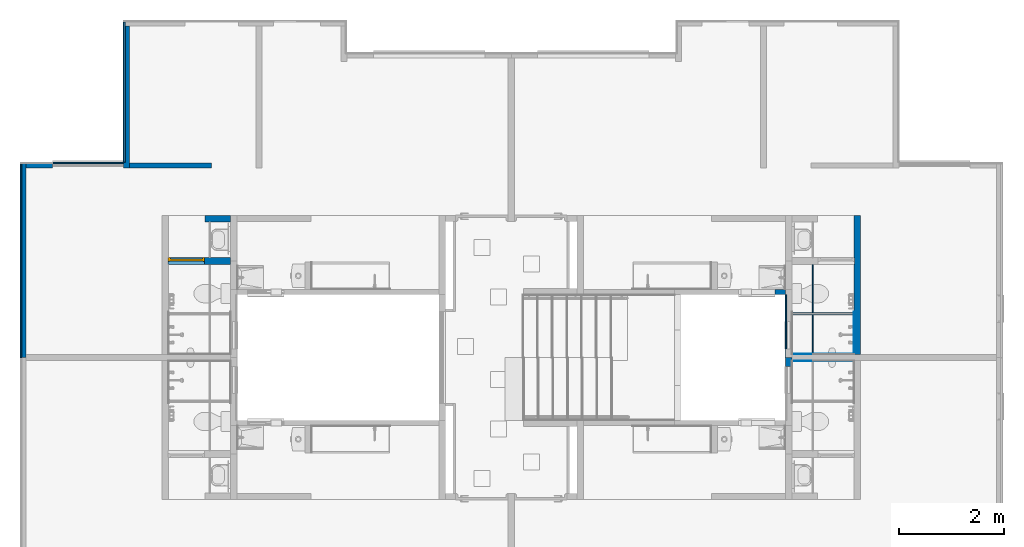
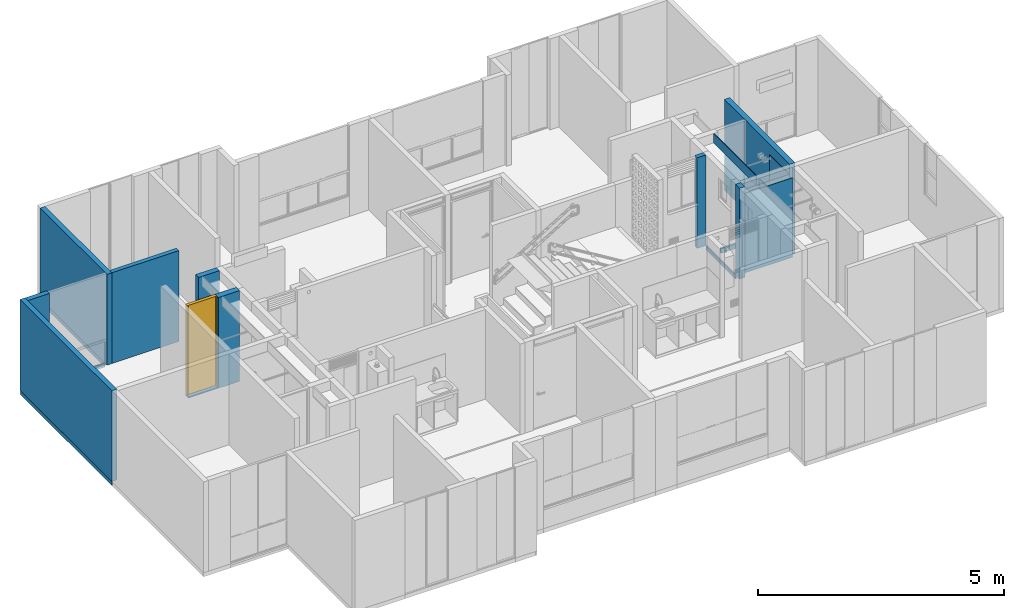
# One storey, part 15 of 48: 18 walls, 1 door, 2 openings.
"""IFC4 building model written with IfcOpenShell, lengths in metres."""

from ifc_helpers import new_model, entity, si_unit, converted_unit, derived_unit, direction, frame, origin, place, context, subcontext, project, spatial, indexed_curve, outline, extrude, polygons, source, transform, mapped, material, constituent, constituent_set, type_object, type_shapes, element, fill, save


model = new_model("IFC4")

# Units and contexts
model_context = context("Model", 3, precision=1e-05, world=origin(), true_north=direction((6.123031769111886e-17, 1.0)))
body_context = subcontext(model_context, "Body", "Model", "MODEL_VIEW")
ifc_project = project(units=[si_unit("LENGTHUNIT", "METRE"), si_unit("AREAUNIT", "SQUARE_METRE"), si_unit("VOLUMEUNIT", "CUBIC_METRE"), converted_unit("PLANEANGLEUNIT", "DEGREE", entity("IfcRatioMeasure", 0.017453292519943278), si_unit("PLANEANGLEUNIT", "RADIAN"), dimensions=[0, 0, 0, 0, 0, 0, 0]), si_unit("MASSUNIT", "GRAM", prefix="KILO"), derived_unit("MASSDENSITYUNIT", [(si_unit("MASSUNIT", "GRAM", prefix="KILO"), 1), (si_unit("LENGTHUNIT", "METRE"), -3)]), derived_unit("IONCONCENTRATIONUNIT", [(si_unit("MASSUNIT", "GRAM", prefix="KILO"), 1), (si_unit("LENGTHUNIT", "METRE"), -3)]), derived_unit("MOMENTOFINERTIAUNIT", [(si_unit("LENGTHUNIT", "METRE"), 4)]), si_unit("TIMEUNIT", "SECOND"), si_unit("FREQUENCYUNIT", "HERTZ"), si_unit("THERMODYNAMICTEMPERATUREUNIT", "DEGREE_CELSIUS"), derived_unit("THERMALTRANSMITTANCEUNIT", [(si_unit("MASSUNIT", "GRAM", prefix="KILO"), 1), (si_unit("THERMODYNAMICTEMPERATUREUNIT", "KELVIN"), -1), (si_unit("TIMEUNIT", "SECOND"), -3)]), derived_unit("THERMALCONDUCTANCEUNIT", [(si_unit("MASSUNIT", "GRAM", prefix="KILO"), 1), (si_unit("THERMODYNAMICTEMPERATUREUNIT", "KELVIN"), -1), (si_unit("TIMEUNIT", "SECOND"), -3), (si_unit("LENGTHUNIT", "METRE"), 1)]), derived_unit("VOLUMETRICFLOWRATEUNIT", [(si_unit("LENGTHUNIT", "METRE"), 3), (si_unit("TIMEUNIT", "SECOND"), -1)]), derived_unit("MASSFLOWRATEUNIT", [(si_unit("MASSUNIT", "GRAM", prefix="KILO"), 1), (si_unit("TIMEUNIT", "SECOND"), -1)]), derived_unit("ROTATIONALFREQUENCYUNIT", [(si_unit("TIMEUNIT", "SECOND"), -1)]), si_unit("ELECTRICCURRENTUNIT", "AMPERE"), si_unit("ELECTRICVOLTAGEUNIT", "VOLT"), si_unit("POWERUNIT", "WATT"), si_unit("FORCEUNIT", "NEWTON", prefix="KILO"), si_unit("ILLUMINANCEUNIT", "LUX"), si_unit("LUMINOUSFLUXUNIT", "LUMEN"), si_unit("LUMINOUSINTENSITYUNIT", "CANDELA"), derived_unit("USERDEFINED", [(si_unit("MASSUNIT", "GRAM", prefix="KILO"), -1), (si_unit("LENGTHUNIT", "METRE"), -2), (si_unit("TIMEUNIT", "SECOND"), 3), (si_unit("LUMINOUSFLUXUNIT", "LUMEN"), 1)]), derived_unit("USERDEFINED", [(si_unit("MASSUNIT", "GRAM", prefix="KILO"), 1), (si_unit("TIMEUNIT", "SECOND"), -3), (si_unit("LENGTHUNIT", "METRE"), 3), (si_unit("ELECTRICCURRENTUNIT", "AMPERE"), -2)]), derived_unit("SOUNDPOWERUNIT", [(si_unit("MASSUNIT", "GRAM", prefix="KILO"), 1), (si_unit("TIMEUNIT", "SECOND"), -3), (si_unit("LENGTHUNIT", "METRE"), 2)]), derived_unit("SOUNDPRESSUREUNIT", [(si_unit("MASSUNIT", "GRAM", prefix="KILO"), 1), (si_unit("LENGTHUNIT", "METRE"), -1), (si_unit("TIMEUNIT", "SECOND"), -2)]), derived_unit("LINEARVELOCITYUNIT", [(si_unit("LENGTHUNIT", "METRE"), 1), (si_unit("TIMEUNIT", "SECOND"), -1)]), si_unit("PRESSUREUNIT", "PASCAL"), derived_unit("USERDEFINED", [(si_unit("MASSUNIT", "GRAM", prefix="KILO"), 1), (si_unit("LENGTHUNIT", "METRE"), -2), (si_unit("TIMEUNIT", "SECOND"), -2)]), derived_unit("LINEARFORCEUNIT", [(si_unit("MASSUNIT", "GRAM", prefix="KILO"), 1), (si_unit("TIMEUNIT", "SECOND"), -2)]), derived_unit("PLANARFORCEUNIT", [(si_unit("MASSUNIT", "GRAM", prefix="KILO"), 1), (si_unit("LENGTHUNIT", "METRE"), -1), (si_unit("TIMEUNIT", "SECOND"), -2)]), derived_unit("SPECIFICHEATCAPACITYUNIT", [(si_unit("THERMODYNAMICTEMPERATUREUNIT", "KELVIN"), -1), (si_unit("LENGTHUNIT", "METRE"), 2), (si_unit("TIMEUNIT", "SECOND"), -2)]), derived_unit("HEATINGVALUEUNIT", [(si_unit("LENGTHUNIT", "METRE"), 2), (si_unit("TIMEUNIT", "SECOND"), -2)]), derived_unit("VAPORPERMEABILITYUNIT", [(si_unit("LENGTHUNIT", "METRE"), -1), (si_unit("TIMEUNIT", "SECOND"), 1)]), derived_unit("DYNAMICVISCOSITYUNIT", [(si_unit("MASSUNIT", "GRAM", prefix="KILO"), 1), (si_unit("TIMEUNIT", "SECOND"), -1), (si_unit("LENGTHUNIT", "METRE"), -1)]), derived_unit("THERMALEXPANSIONCOEFFICIENTUNIT", [(si_unit("THERMODYNAMICTEMPERATUREUNIT", "KELVIN"), -1)]), derived_unit("MODULUSOFELASTICITYUNIT", [(si_unit("MASSUNIT", "GRAM", prefix="KILO"), 1), (si_unit("LENGTHUNIT", "METRE"), -1), (si_unit("TIMEUNIT", "SECOND"), -2)]), derived_unit("ISOTHERMALMOISTURECAPACITYUNIT", [(si_unit("LENGTHUNIT", "METRE"), 3), (si_unit("MASSUNIT", "GRAM", prefix="KILO"), -1)]), derived_unit("MOISTUREDIFFUSIVITYUNIT", [(si_unit("TIMEUNIT", "SECOND"), -1), (si_unit("LENGTHUNIT", "METRE"), 2)])], contexts=[model_context])

# Site, building, storey
site_placement = place(None, origin())
site = spatial("IfcSite", under=ifc_project, at=site_placement, Name="Default", CompositionType="ELEMENT")
building_placement = place(site_placement, origin())
building = spatial("IfcBuilding", under=site, at=building_placement, CompositionType="ELEMENT")
storey_placement = place(building_placement, frame((0.0, 0.0, 9.40000000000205)))
storey = spatial("IfcBuildingStorey", under=building, at=storey_placement, Name="Nivel 5", CompositionType="ELEMENT", Elevation=9.40000000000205)

# Walls
ifc_material_1 = material(Name="Ladrillo claro (Aire)", Category="Materials")
wall_type_1 = type_object("IfcWallType", Name="Basic Wall:B2010 - 0.115m - Muro exterior en mampostería - Ladrillo", PredefinedType="STANDARD")
wall_1_placement = place(storey_placement, frame((0.0, -2.6950000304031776, 0.0), z_axis=(0.0, 0.0, 1.0), x_axis=(0.0, -1.0, 0.0)))
element("IfcWall", 1, at=wall_1_placement, inside=storey, type_object=wall_type_1, material=ifc_material_1, Name="Basic Wall:B2010 - 0.115m - Muro exterior en mampostería - Ladrillo", ObjectType="Basic Wall:B2010 - 0.115m - Muro exterior en mampostería - Ladrillo", PredefinedType="NOTDEFINED", context=body_context, shape_type="SweptSolid", body=[
    extrude(outline(indexed_curve([(3.7299999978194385, 0.0575), (-8.90011336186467e-17, 0.0575), (8.90011336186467e-17, -0.0575), (3.7299999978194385, -0.0575), (3.7299999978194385, 0.0575)], self_intersect=False)), origin(), (0.0, 0.0, 1.0), 2.25000000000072),
])
wall_2_placement = place(storey_placement, frame((1.9749999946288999, -2.8100000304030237, 0.0), z_axis=(0.0, 0.0, 1.0), x_axis=(0.0, 1.0, 0.0)))
element("IfcWall", 2, at=wall_2_placement, inside=storey, type_object=wall_type_1, material=ifc_material_1, Name="Basic Wall:B2010 - 0.115m - Muro exterior en mampostería - Ladrillo", ObjectType="Basic Wall:B2010 - 0.115m - Muro exterior en mampostería - Ladrillo", PredefinedType="NOTDEFINED", context=body_context, shape_type="SweptSolid", body=[
    extrude(outline(indexed_curve([(2.7150000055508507, 0.05750000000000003), (-1.0301981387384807e-16, 0.057499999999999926), (1.0301981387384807e-16, -0.057499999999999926), (2.7150000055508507, -0.057499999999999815), (2.7150000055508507, 0.05750000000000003)], self_intersect=False)), origin(), (0.0, 0.0, 1.0), 2.25000000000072),
])
ifc_material_2 = material(Name="LADRILLO CLARO", Category="Materials")
wall_type_2 = type_object("IfcWallType", Name="Basic Wall:B2010 - 0.115m - ME mampostería no estructural - Ladrillo", PredefinedType="STANDARD")
wall_3_placement = place(storey_placement, frame((0.05750000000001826, -2.7525000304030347, 0.0)))
element("IfcWall", 3, at=wall_3_placement, inside=storey, type_object=wall_type_2, material=ifc_material_2, Name="Basic Wall:B2010 - 0.115m - ME mampostería no estructural - Ladrillo", ObjectType="Basic Wall:B2010 - 0.115m - ME mampostería no estructural - Ladrillo", PredefinedType="NOTDEFINED", context=body_context, shape_type="SweptSolid", body=[
    extrude(outline(indexed_curve([(0.5099999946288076, 0.05749999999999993), (-3.859013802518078e-18, 0.057499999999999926), (3.859013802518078e-18, -0.057499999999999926), (0.5099999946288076, -0.05749999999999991), (0.5099999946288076, 0.05749999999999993)], self_intersect=False)), origin(), (0.0, 0.0, 1.0), 2.250000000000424),
])
ifc_material_3 = material(Name="Concreto (Aire)", Category="Materials")
wall_type_3 = type_object("IfcWallType", Name="Basic Wall:B2010 - 0.10m - Muro interior en concreto", PredefinedType="STANDARD")
wall_4_placement = place(storey_placement, frame((2.032499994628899, -2.7600000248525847, 0.0)))
element("IfcWall", 4, at=wall_4_placement, inside=storey, type_object=wall_type_3, material=ifc_material_3, Name="Basic Wall:B2010 - 0.10m - Muro interior en concreto", ObjectType="Basic Wall:B2010 - 0.10m - Muro interior en concreto", PredefinedType="NOTDEFINED", context=body_context, shape_type="SweptSolid", body=[
    extrude(outline(indexed_curve([(1.5699999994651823, 0.04999999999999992), (6.03923499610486e-18, 0.05), (-6.03923499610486e-18, -0.05), (1.5699999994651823, -0.050000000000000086), (1.5699999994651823, 0.04999999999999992)], self_intersect=False)), origin(), (0.0, 0.0, 1.0), 2.2499999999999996),
])
ifc_material_4 = material(Name="Pañete", Category="Materials")
ifc_constituent_1 = constituent(ifc_material_4, Name="Pañete", Category="Materials")
ifc_constituent_2 = constituent(ifc_material_1, Name="Ladrillo claro (Aire)", Category="Materials")
ifc_constituent_set_1 = constituent_set(constituents=[ifc_constituent_1, ifc_constituent_2], Name="Basic Wall:B2010 - 0.115m - Muro interior en mampostería - Ladrillo + Pañete")
wall_type_4 = type_object("IfcWallType", Name="Basic Wall:B2010 - 0.115m - Muro interior en mampostería - Ladrillo + Pañete", PredefinedType="STANDARD", material=ifc_constituent_set_1)
wall_5_placement = place(storey_placement, frame((3.4724999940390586, -3.7725000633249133, 0.0)))
element("IfcWall", 5, at=wall_5_placement, inside=storey, type_object=wall_type_4, material=ifc_constituent_set_1, Name="Basic Wall:B2010 - 0.115m - Muro interior en mampostería - Ladrillo + Pañete", ObjectType="Basic Wall:B2010 - 0.115m - Muro interior en mampostería - Ladrillo + Pañete", PredefinedType="NOTDEFINED", context=body_context, shape_type="SweptSolid", body=[
    extrude(outline(indexed_curve([(-0.0050000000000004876, -0.24500000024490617), (0.004999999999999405, -0.24500000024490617), (0.005000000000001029, 0.24500000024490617), (-0.004999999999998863, 0.24500000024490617), (-0.0050000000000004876, -0.24500000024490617)], self_intersect=False)), frame((0.24500000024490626, -0.05750000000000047, 0.0), z_axis=(0.0, 0.0, 1.0), x_axis=(0.0, 1.0, 0.0)), (0.0, 0.0, 1.0), 2.2500000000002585),
    extrude(outline(indexed_curve([(-0.057499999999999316, -0.2450000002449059), (0.05750000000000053, -0.24500000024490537), (0.05749999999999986, 0.24500000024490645), (-0.05749999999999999, 0.24500000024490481), (-0.057499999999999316, -0.2450000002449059)], self_intersect=False)), frame((0.24500000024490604, 0.004999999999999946, 0.0), z_axis=(0.0, 0.0, 1.0), x_axis=(0.0, -1.0, 0.0)), (0.0, 0.0, 1.0), 2.2500000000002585),
])

# Wall, opening
wall_6_placement = place(storey_placement, frame((15.929998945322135, -3.7100000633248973, 0.0), z_axis=(0.0, 0.0, 1.0), x_axis=(0.0, -1.0, 0.0)))
wall_6 = element("IfcWall", 6, at=wall_6_placement, inside=storey, type_object=wall_type_4, material=ifc_constituent_set_1, Name="Basic Wall:B2010 - 0.115m - Muro interior en mampostería - Ladrillo + Pañete", ObjectType="Basic Wall:B2010 - 0.115m - Muro interior en mampostería - Ladrillo + Pañete", PredefinedType="NOTDEFINED", context=body_context, shape_type="SweptSolid", body=[
    extrude(outline(indexed_curve([(-0.7550000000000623, -1.1920833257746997), (1.4949999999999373, -1.1920833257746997), (1.4949999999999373, -0.38708332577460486), (-0.7249999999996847, -0.38708332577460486), (-0.7249999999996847, -0.2520833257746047), (1.4949999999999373, -0.2520833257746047), (1.4949999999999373, 1.4629166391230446), (-0.7550000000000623, 1.4629166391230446), (-0.7550000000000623, 0.7129166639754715), (-0.7550000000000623, 0.662916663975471), (-0.7550000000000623, -0.2520833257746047), (-0.7550000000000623, -0.38708332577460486), (-0.7550000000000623, -1.1920833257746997)], self_intersect=False)), frame((1.1920833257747, -0.062499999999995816, 0.7550000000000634), z_axis=(0.0, 1.0, 0.0), x_axis=(0.0, 0.0, 1.0)), (0.0, 0.0, 1.0), 0.009999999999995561),
    extrude(outline(indexed_curve([(-0.05750000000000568, -1.3274999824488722), (0.05749999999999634, -1.3274999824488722), (0.05750000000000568, 1.3274999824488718), (-0.05749999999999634, 1.3274999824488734), (-0.05750000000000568, -1.3274999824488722)], self_intersect=False)), frame((1.3274999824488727, 0.005000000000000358, 0.0), z_axis=(0.0, 0.0, 1.0), x_axis=(0.0, -1.0, 0.0)), (0.0, 0.0, 1.0), 2.2499999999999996),
])
opening_1_placement = place(wall_6_placement, origin())
element("IfcOpeningElement", 7, at=opening_1_placement, cuts=wall_6, Name="Basic Wall:B2010 - 0.115m - Muro interior en mampostería - Ladrillo + Pañete", PredefinedType="OPENING", context=body_context, shape_type="SweptSolid", body=[
    extrude(outline(indexed_curve([(-0.06749999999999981, -1.1099999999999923), (0.06750000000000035, -1.1099999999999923), (0.06750000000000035, 1.1099999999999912), (-0.06749999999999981, 1.1099999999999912), (-0.06749999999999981, -1.1099999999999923)], self_intersect=False)), frame((0.8725000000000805, -0.7524999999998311, 1.14000000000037), z_axis=(0.0, 1.0, 0.0), x_axis=(1.0, 0.0, 0.0)), (0.0, 0.0, 1.0), 0.7000000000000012),
])

# Wall, opening, door
ifc_constituent_3 = constituent(ifc_material_4, Name="Pañete", Category="Materials")
ifc_constituent_4 = constituent(ifc_material_2, Name="LADRILLO CLARO", Category="Materials")
ifc_constituent_5 = constituent(ifc_material_4, Name="Pañete (2)", Category="Materials")
ifc_constituent_set_2 = constituent_set(constituents=[ifc_constituent_3, ifc_constituent_4, ifc_constituent_5], Name="Basic Wall:B2010 - 0.115m - MI  mampostería no estructural - Pañete + Ladrillo + Pañete")
wall_type_5 = type_object("IfcWallType", Name="Basic Wall:B2010 - 0.115m - MI  mampostería no estructural - Pañete + Ladrillo + Pañete", PredefinedType="STANDARD", material=ifc_constituent_set_2)
wall_7_placement = place(storey_placement, frame((3.962499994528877, -4.582500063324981, 0.0), z_axis=(0.0, 0.0, 1.0), x_axis=(-1.0, 0.0, 0.0)))
wall_7 = element("IfcWall", 8, at=wall_7_placement, inside=storey, type_object=wall_type_5, material=ifc_constituent_set_2, Name="Basic Wall:B2010 - 0.115m - MI  mampostería no estructural - Pañete + Ladrillo + Pañete", ObjectType="Basic Wall:B2010 - 0.115m - MI  mampostería no estructural - Pañete + Ladrillo + Pañete", PredefinedType="NOTDEFINED", context=body_context, shape_type="SweptSolid", body=[
    extrude(outline(indexed_curve([(-1.1325000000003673, -0.6649994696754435), (-1.102500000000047, -0.6649994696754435), (-1.102500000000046, 0.025000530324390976), (1.117500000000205, 0.025000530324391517), (1.117500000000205, 0.10999946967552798), (1.117500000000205, 0.12999946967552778), (1.117500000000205, 0.5199994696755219), (-1.1325000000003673, 0.5199994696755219), (-1.1325000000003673, -0.6649994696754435)], self_intersect=False)), frame((0.519999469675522, 0.06750000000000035, 1.1325000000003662), z_axis=(0.0, -1.0, 0.0), x_axis=(0.0, 0.0, 1.0)), (0.0, 0.0, 1.0), 0.009999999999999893),
    extrude(outline(indexed_curve([(-0.7600000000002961, -0.6249996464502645), (-0.7299999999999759, -0.6249996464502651), (-0.7299999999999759, 0.06500035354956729), (1.4900000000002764, 0.06500035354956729), (1.4900000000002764, 0.5599992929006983), (-0.7600000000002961, 0.5599992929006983), (-0.7600000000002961, -0.6249996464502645)], self_intersect=False)), frame((0.5599992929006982, -0.05750000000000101, 0.760000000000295), z_axis=(0.0, -1.0, 0.0), x_axis=(0.0, 0.0, 1.0)), (0.0, 0.0, 1.0), 0.010000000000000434),
    extrude(outline(indexed_curve([(-0.7600000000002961, -0.6316663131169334), (-0.7299999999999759, -0.6316663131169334), (-0.7299999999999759, 0.06833368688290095), (1.4900000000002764, 0.06833368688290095), (1.4900000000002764, 0.5633326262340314), (-0.7600000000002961, 0.5633326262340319), (-0.7600000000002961, -0.6316663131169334)], self_intersect=False)), frame((0.5633326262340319, 0.057499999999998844, 0.760000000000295), z_axis=(0.0, -1.0, 0.0), x_axis=(0.0, 0.0, 1.0)), (0.0, 0.0, 1.0), 0.11499999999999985),
])
opening_2_placement = place(wall_7_placement, frame((0.49499893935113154, -0.06749999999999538, 0.029999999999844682)))
opening_2 = element("IfcOpeningElement", 9, at=opening_2_placement, cuts=wall_7, Name="C1030 - Puerta batiente - Madera+Aluminio:C1030 - 0.70 x 2.22 - Puerta batiente - Madera+ Metal:1", PredefinedType="OPENING", context=body_context, shape_type="SweptSolid", body=[
    extrude(outline(indexed_curve([(-2.8961849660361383e-19, 1.3535839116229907e-16), (2.2199999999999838, 1.3535839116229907e-16), (2.2199999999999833, 0.7000000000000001), (1.438182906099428e-16, 0.7000000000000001), (-2.8961849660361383e-19, 1.3535839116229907e-16)], self_intersect=False)), frame((0.0, 0.0, 0.0), z_axis=(0.0, 1.0, 0.0), x_axis=(0.0, 0.0, 1.0)), (0.0, 0.0, 1.0), 0.13499999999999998),
])
ifc_material_5 = material(Name="<Unnamed>")
door_type = type_object("IfcDoorType", Name="C1030 - Puerta batiente - Madera+Aluminio:C1030 - 0.70 x 2.22 - Puerta batiente - Madera+ Metal", OperationType="SINGLE_SWING_RIGHT", PredefinedType="DOOR", material=ifc_material_5)
shared_shape = source(origin(), body_context, "Body", "Tessellation", [
    polygons([(0.030000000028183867, 0.06499999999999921, 0.009880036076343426), (0.6699999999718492, 0.06499999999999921, 0.009880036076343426), (0.6699999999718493, 0.0324999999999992, 0.009880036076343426), (0.030000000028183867, 0.0324999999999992, 0.009880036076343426), (0.030000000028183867, 0.06499999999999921, 2.2050000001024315), (0.030000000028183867, 0.0324999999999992, 2.2050000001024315), (0.6699999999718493, 0.0324999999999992, 2.2050000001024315), (0.6699999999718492, 0.06499999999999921, 2.2050000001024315)], [[[1, 2, 3, 4]], [[5, 1, 4, 6]], [[6, 4, 3, 7]], [[7, 3, 2, 8]], [[8, 2, 1, 5]], [[5, 6, 7, 8]]], closed=True),
    polygons([(0.015000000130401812, 0.0649999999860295, 0.0), (0.015000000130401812, 0.07999999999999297, 0.0), (0.030000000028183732, 0.07999999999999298, 0.0), (0.030000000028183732, 0.04000000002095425, 0.0), (0.045000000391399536, 0.04000000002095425, 0.0), (0.045000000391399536, -1.6919798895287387e-17, 0.0), (0.015000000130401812, -5.075939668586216e-17, 0.0), (0.015000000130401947, 0.007499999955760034, 0.0), (1.651372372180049e-14, 0.0074999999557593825, 0.0), (1.651372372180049e-14, 0.0649999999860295, 0.0), (1.651372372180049e-14, 0.0074999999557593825, 2.2199999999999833), (0.015000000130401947, 0.007499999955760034, 2.2199999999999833), (0.015000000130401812, 0.0649999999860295, 2.2199999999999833), (1.651372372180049e-14, 0.0649999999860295, 2.2199999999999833), (0.6849999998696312, 0.06499999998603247, 0.0), (0.7000000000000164, 0.06499999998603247, 0.0), (0.7000000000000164, 0.007499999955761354, 0.0), (0.6849999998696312, 0.007499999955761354, 0.0), (0.6849999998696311, 0.0, 0.0), (0.6549999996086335, 0.0, 0.0), (0.6549999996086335, 0.04000000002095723, 0.0), (0.6699999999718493, 0.04000000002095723, 0.0), (0.6699999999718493, 0.07999999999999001, 0.0), (0.6849999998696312, 0.07999999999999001, 0.0), (0.7000000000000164, 0.06499999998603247, 2.2199999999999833), (0.6849999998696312, 0.06499999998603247, 2.2199999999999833), (0.6849999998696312, 0.007499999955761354, 2.2199999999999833), (0.7000000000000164, 0.007499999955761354, 2.2199999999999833), (0.6549999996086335, 0.0, 2.189999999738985), (0.6549999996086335, 0.03250000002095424, 2.189999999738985), (0.6549999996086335, 0.03250000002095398, 2.2050000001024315), (0.6549999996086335, 0.04000000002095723, 2.2050000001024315), (0.045000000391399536, 0.04000000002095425, 2.2050000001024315), (0.045000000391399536, 0.03250000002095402, 2.2050000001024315), (0.045000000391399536, 0.032500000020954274, 2.189999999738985), (0.045000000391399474, -1.6919798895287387e-17, 2.189999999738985), (0.6699999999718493, 0.04000000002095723, 2.2050000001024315), (0.6699999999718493, 0.07249999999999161, 2.2050000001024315), (0.6699999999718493, 0.07249999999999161, 2.2199999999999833), (0.6699999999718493, 0.07999999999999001, 2.2199999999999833), (0.030000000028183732, 0.07999999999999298, 2.2199999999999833), (0.030000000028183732, 0.07249999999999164, 2.2199999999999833), (0.030000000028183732, 0.07249999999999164, 2.2050000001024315), (0.030000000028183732, 0.04000000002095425, 2.2050000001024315), (0.6849999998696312, 0.07999999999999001, 2.2199999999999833), (0.6849999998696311, 0.0, 2.2199999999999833), (0.015000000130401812, -5.075939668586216e-17, 2.2199999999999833), (0.015000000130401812, 0.07999999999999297, 2.2199999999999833)], [[[1, 2, 3, 4, 5, 6, 7, 8, 9, 10]], [[11, 9, 8, 12]], [[13, 1, 10, 14]], [[15, 16, 17, 18, 19, 20, 21, 22, 23, 24]], [[25, 16, 15, 26]], [[27, 18, 17, 28]], [[20, 29, 30, 31, 32, 21]], [[5, 33, 34, 35, 36, 6]], [[22, 37, 38, 39, 40, 23]], [[3, 41, 42, 43, 44, 4]], [[28, 17, 16, 25]], [[14, 10, 9, 11]], [[26, 15, 24, 45]], [[45, 24, 23, 40]], [[21, 32, 37, 22]], [[19, 46, 47, 7, 6, 36, 29, 20]], [[46, 19, 18, 27]], [[12, 8, 7, 47]], [[48, 2, 1, 13]], [[26, 45, 40, 39, 42, 41, 48, 13, 14, 11, 12, 47, 46, 27, 28, 25]], [[38, 37, 32, 31, 34, 33, 44, 43]], [[36, 35, 30, 29]], [[4, 44, 33, 5]], [[41, 3, 2, 48]], [[35, 34, 31, 30]], [[43, 42, 39, 38]]], closed=True),
])
type_shapes(door_type, [shared_shape])
door_placement = place(opening_2_placement, origin())
door = element("IfcDoor", 10, at=door_placement, inside=storey, type_object=door_type, material=ifc_material_5, Name="C1030 - Puerta batiente - Madera+Aluminio:C1030 - 0.70 x 2.22 - Puerta batiente - Madera+ Metal", ObjectType="C1030 - Puerta batiente - Madera+Aluminio:C1030 - 0.70 x 2.22 - Puerta batiente - Madera+ Metal", OperationType="NOTDEFINED", OverallHeight=2.2199999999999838, OverallWidth=0.7000000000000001, PredefinedType="DOOR", context=body_context, shape_type="MappedRepresentation", body=[
    mapped(shared_shape, transform((0.0, 0.0, 0.0), scale=1.0)),
])
fill(opening_2, door)

# Walls
ifc_material_6 = material(Name="PINTURA BLANCA PARA EXTERIORES", Category="Materials")
ifc_constituent_6 = constituent(ifc_material_6, Name="PINTURA BLANCA PARA EXTERIORES", Category="Materials")
ifc_material_7 = material(Name="Concreto - Fundido in situ", Category="Materials")
ifc_constituent_7 = constituent(ifc_material_7, Name="Concreto - Fundido in situ", Category="Materials")
ifc_constituent_set_3 = constituent_set(constituents=[ifc_constituent_6, ifc_constituent_7], Name="Basic Wall:B2010 - 0.10m - MI no estructural- Concreto + repello+ pintura blanca")
wall_type_6 = type_object("IfcWallType", Name="Basic Wall:B2010 - 0.10m - MI no estructural- Concreto + repello+ pintura blanca", PredefinedType="STANDARD", material=ifc_constituent_set_3)
wall_8_placement = place(storey_placement, frame((14.557500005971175, -5.175000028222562, 0.0), z_axis=(0.0, 0.0, 1.0), x_axis=(-1.0, 0.0, 0.0)))
element("IfcWall", 11, at=wall_8_placement, inside=storey, type_object=wall_type_6, material=ifc_constituent_set_3, Name="Basic Wall:B2010 - 0.10m - MI no estructural- Concreto + repello+ pintura blanca", ObjectType="Basic Wall:B2010 - 0.10m - MI no estructural- Concreto + repello+ pintura blanca", PredefinedType="NOTDEFINED", context=body_context, shape_type="SweptSolid", body=[
    extrude(outline(indexed_curve([(-0.000500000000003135, -0.10000000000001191), (0.0004999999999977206, -0.10000000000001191), (0.0005000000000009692, 0.10000000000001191), (-0.0004999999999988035, 0.10000000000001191), (-0.000500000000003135, -0.10000000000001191)], self_intersect=False)), frame((0.10000000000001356, 0.04999999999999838, 0.0), z_axis=(0.0, 0.0, 1.0), x_axis=(0.0, -1.0, 0.0)), (0.0, 0.0, 1.0), 2.2499999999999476),
    extrude(outline(indexed_curve([(-0.04999999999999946, -0.10000000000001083), (0.050000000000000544, -0.10000000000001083), (0.04999999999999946, 0.10000000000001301), (-0.04999999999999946, 0.10000000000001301), (-0.04999999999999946, -0.10000000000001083)], self_intersect=False)), frame((0.10000000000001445, -0.0005000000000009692, 0.0), z_axis=(0.0, 0.0, 1.0), x_axis=(0.0, 1.0, 0.0)), (0.0, 0.0, 1.0), 2.2499999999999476),
])
ifc_material_8 = material(Name="Ceramica 0.25m x 0.35m", Category="Materials")
wall_type_7 = type_object("IfcWallType", Name="Basic Wall:C2010 - 0.25 x 0.35 - Enchape cerámico", PredefinedType="STANDARD")
wall_9_placement = place(storey_placement, frame((15.862498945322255, -6.365000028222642, 0.029999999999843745), z_axis=(0.0, 0.0, 1.0), x_axis=(0.0, 1.0, 0.0)))
element("IfcWall", 12, at=wall_9_placement, inside=storey, type_object=wall_type_7, material=ifc_material_8, Name="Basic Wall:C2010 - 0.25 x 0.35 - Enchape cerámico", ObjectType="Basic Wall:C2010 - 0.25 x 0.35 - Enchape cerámico", PredefinedType="NOTDEFINED", context=body_context, shape_type="SweptSolid", body=[
    extrude(outline(indexed_curve([(0.8099999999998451, 0.005000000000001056), (-1.654422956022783e-19, 0.005000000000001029), (1.654422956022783e-19, -0.005000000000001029), (0.8099999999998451, -0.005000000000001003), (0.8099999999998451, 0.005000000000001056)], self_intersect=False)), origin(), (0.0, 0.0, 1.0), 1.9700000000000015),
])
wall_10_placement = place(storey_placement, frame((15.857498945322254, -6.360000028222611, 0.029999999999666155), z_axis=(0.0, 0.0, 1.0), x_axis=(-1.0, 0.0, 0.0)))
element("IfcWall", 13, at=wall_10_placement, inside=storey, type_object=wall_type_7, material=ifc_material_8, Name="Basic Wall:C2010 - 0.25 x 0.35 - Enchape cerámico", ObjectType="Basic Wall:C2010 - 0.25 x 0.35 - Enchape cerámico", PredefinedType="NOTDEFINED", context=body_context, shape_type="SweptSolid", body=[
    extrude(outline(indexed_curve([(1.1649989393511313, 0.004999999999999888), (-9.047226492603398e-18, 0.004999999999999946), (9.047226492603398e-18, -0.004999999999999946), (1.1649989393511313, -0.0050000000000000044), (1.1649989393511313, 0.004999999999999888)], self_intersect=False)), origin(), (0.0, 0.0, 1.0), 1.9700000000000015),
])
wall_11_placement = place(storey_placement, frame((15.857498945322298, -6.490000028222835, 0.029999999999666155), z_axis=(0.0, 0.0, 1.0), x_axis=(-1.0, 0.0, 0.0)))
element("IfcWall", 14, at=wall_11_placement, inside=storey, type_object=wall_type_7, material=ifc_material_8, Name="Basic Wall:C2010 - 0.25 x 0.35 - Enchape cerámico", ObjectType="Basic Wall:C2010 - 0.25 x 0.35 - Enchape cerámico", PredefinedType="NOTDEFINED", context=body_context, shape_type="SweptSolid", body=[
    extrude(outline(indexed_curve([(1.1649989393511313, 0.0050000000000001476), (8.43490309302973e-18, 0.004999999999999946), (-8.43490309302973e-18, -0.004999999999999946), (1.1649989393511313, -0.004999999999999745), (1.1649989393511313, 0.0050000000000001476)], self_intersect=False)), origin(), (0.0, 0.0, 1.0), 1.9700000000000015),
])
ifc_material_9 = material(Name="0 muro divisorio", Category="Materials")
wall_type_8 = type_object("IfcWallType", Name="Basic Wall:B2010 - 0.05m - Poyo para duchas - Concreto", PredefinedType="STANDARD")
wall_12_placement = place(storey_placement, frame((15.867498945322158, -5.5900000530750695, 0.0), z_axis=(0.0, 0.0, 1.0), x_axis=(-1.0, 0.0, 0.0)))
element("IfcWall", 15, at=wall_12_placement, inside=storey, type_object=wall_type_8, material=ifc_material_9, Name="Basic Wall:B2010 - 0.05m - Poyo para duchas - Concreto", ObjectType="Basic Wall:B2010 - 0.05m - Poyo para duchas - Concreto", PredefinedType="NOTDEFINED", context=body_context, shape_type="SweptSolid", body=[
    extrude(outline(indexed_curve([(1.1749989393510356, 0.02499999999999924), (-2.4304076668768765e-16, 0.02499999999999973), (2.4304076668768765e-16, -0.02499999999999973), (1.1749989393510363, -0.025000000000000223), (1.1749989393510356, 0.02499999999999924)], self_intersect=False)), origin(), (0.0, 0.0, 1.0), 0.11000000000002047),
])
ifc_material_10 = material(Name="Plasterboard", Category="Materials")
wall_type_9 = type_object("IfcWallType", Name="Basic Wall:C1070 - 0.02m - Plafón - Drywall", PredefinedType="STANDARD")
wall_13_placement = place(storey_placement, frame((15.082500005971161, -6.365000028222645, 2.019999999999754), z_axis=(0.0, 0.0, 1.0), x_axis=(0.0, 1.0, 0.0)))
element("IfcWall", 16, at=wall_13_placement, inside=storey, type_object=wall_type_9, material=ifc_material_10, Name="Basic Wall:C1070 - 0.02m - Plafón - Drywall", ObjectType="Basic Wall:C1070 - 0.02m - Plafón - Drywall", PredefinedType="NOTDEFINED", context=body_context, shape_type="SweptSolid", body=[
    extrude(outline(indexed_curve([(1.7149999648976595, 0.010000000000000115), (-7.706224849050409e-17, 0.009999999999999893), (7.706224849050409e-17, -0.009999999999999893), (1.7149999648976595, -0.00999999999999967), (1.7149999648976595, 0.010000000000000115)], self_intersect=False)), origin(), (0.0, 0.0, 1.0), 0.23000000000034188),
])
ifc_constituent_8 = constituent(ifc_material_4, Name="Pañete", Category="Materials")
ifc_constituent_9 = constituent(ifc_material_2, Name="LADRILLO CLARO", Category="Materials")
ifc_constituent_set_4 = constituent_set(constituents=[ifc_constituent_8, ifc_constituent_9], Name="Basic Wall:B2010 - 0.115m - MI  mampostería no estructural - Ladrillo + Pañete")
wall_type_10 = type_object("IfcWallType", Name="Basic Wall:B2010 - 0.115m - MI  mampostería no estructural - Ladrillo + Pañete", PredefinedType="STANDARD", material=ifc_constituent_set_4)
wall_14_placement = place(storey_placement, frame((14.620000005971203, -6.592187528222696, 0.0), z_axis=(0.0, 0.0, 1.0), x_axis=(0.0, 1.0, 0.0)))
element("IfcWall", 17, at=wall_14_placement, inside=storey, type_object=wall_type_10, material=ifc_constituent_set_4, Name="Basic Wall:B2010 - 0.115m - MI  mampostería no estructural - Ladrillo + Pañete", ObjectType="Basic Wall:B2010 - 0.115m - MI  mampostería no estructural - Ladrillo + Pañete", PredefinedType="NOTDEFINED", context=body_context, shape_type="SweptSolid", body=[
    extrude(outline(indexed_curve([(-0.004999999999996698, -0.08359375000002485), (0.005000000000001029, -0.08359375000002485), (0.004999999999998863, 0.08359375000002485), (-0.004999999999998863, 0.08359375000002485), (-0.004999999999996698, -0.08359375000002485)], self_intersect=False)), frame((0.08359375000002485, -0.057500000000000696, 0.0), z_axis=(0.0, 0.0, 1.0), x_axis=(0.0, 1.0, 0.0)), (0.0, 0.0, 1.0), 2.2500000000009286),
    extrude(outline(indexed_curve([(-0.05750000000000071, -0.08359375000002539), (0.0575000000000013, -0.08359375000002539), (0.05750000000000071, 0.08359375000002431), (-0.0575000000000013, 0.08359375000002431), (-0.05750000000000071, -0.08359375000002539)], self_intersect=False)), frame((0.08359375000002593, 0.005000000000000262, 0.0), z_axis=(0.0, 0.0, 1.0), x_axis=(0.0, -1.0, 0.0)), (0.0, 0.0, 1.0), 2.2500000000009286),
])
wall_type_11 = type_object("IfcWallType", Name="Basic Wall:B2010 - 0.03m - ME enchape  no estructural - Ladrillo", PredefinedType="STANDARD")
wall_15_placement = place(storey_placement, frame((1.932499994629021, -0.010000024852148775, -0.10000000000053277), z_axis=(0.0, 0.0, 1.0), x_axis=(0.0, -1.0, 0.0)))
element("IfcWall", 18, at=wall_15_placement, inside=storey, type_object=wall_type_11, material=ifc_material_2, Name="Basic Wall:B2010 - 0.03m - ME enchape  no estructural - Ladrillo", ObjectType="Basic Wall:B2010 - 0.03m - ME enchape  no estructural - Ladrillo", PredefinedType="NOTDEFINED", context=body_context, shape_type="SweptSolid", body=[
    extrude(outline(indexed_curve([(2.6836602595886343, 0.015000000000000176), (1.2417119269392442e-18, 0.015000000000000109), (-1.2417119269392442e-18, -0.015000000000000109), (2.6836602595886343, -0.015000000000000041), (2.6836602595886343, 0.015000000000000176)], self_intersect=False)), origin(), (0.0, 0.0, 1.0), 0.09999999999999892),
])
wall_16_placement = place(storey_placement, frame((-0.04249999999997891, -2.7250000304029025, -0.10000000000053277), z_axis=(0.0, 0.0, 1.0), x_axis=(0.0, -1.0, 0.0)))
element("IfcWall", 19, at=wall_16_placement, inside=storey, type_object=wall_type_11, material=ifc_material_2, Name="Basic Wall:B2010 - 0.03m - ME enchape  no estructural - Ladrillo", ObjectType="Basic Wall:B2010 - 0.03m - ME enchape  no estructural - Ladrillo", PredefinedType="NOTDEFINED", context=body_context, shape_type="SweptSolid", body=[
    extrude(outline(indexed_curve([(3.699999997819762, 0.015), (-2.796678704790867e-17, 0.015), (2.796678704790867e-17, -0.015), (3.699999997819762, -0.015000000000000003), (3.699999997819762, 0.015)], self_intersect=False)), origin(), (0.0, 0.0, 1.0), 0.09999999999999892),
])
wall_17_placement = place(storey_placement, frame((0.5674999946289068, -2.710000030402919, -0.10000000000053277)))
element("IfcWall", 20, at=wall_17_placement, inside=storey, type_object=wall_type_11, material=ifc_material_2, Name="Basic Wall:B2010 - 0.03m - ME enchape  no estructural - Ladrillo", ObjectType="Basic Wall:B2010 - 0.03m - ME enchape  no estructural - Ladrillo", PredefinedType="NOTDEFINED", context=body_context, shape_type="SweptSolid", body=[
    extrude(outline(indexed_curve([(1.3500000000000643, 0.01499999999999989), (2.443197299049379e-18, 0.014999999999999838), (-2.443197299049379e-18, -0.014999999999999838), (1.3500000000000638, -0.014999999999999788), (1.3500000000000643, 0.01499999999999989)], self_intersect=False)), origin(), (0.0, 0.0, 1.0), 0.09999999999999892),
])
wall_18_placement = place(storey_placement, frame((14.57250000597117, -5.2250000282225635, -0.10000000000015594), z_axis=(0.0, 0.0, 1.0), x_axis=(0.0, -1.0, 0.0)))
element("IfcWall", 21, at=wall_18_placement, inside=storey, type_object=wall_type_11, material=ifc_material_2, Name="Basic Wall:B2010 - 0.03m - ME enchape  no estructural - Ladrillo", ObjectType="Basic Wall:B2010 - 0.03m - ME enchape  no estructural - Ladrillo", PredefinedType="NOTDEFINED", context=body_context, shape_type="SweptSolid", body=[
    extrude(outline(indexed_curve([(1.2000000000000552, 0.015000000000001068), (-2.890864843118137e-17, 0.015000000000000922), (2.890864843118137e-17, -0.015000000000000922), (1.2000000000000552, -0.015000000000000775), (1.2000000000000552, 0.015000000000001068)], self_intersect=False)), origin(), (0.0, 0.0, 1.0), 0.09999999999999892),
])

save(model, "model.ifc")
